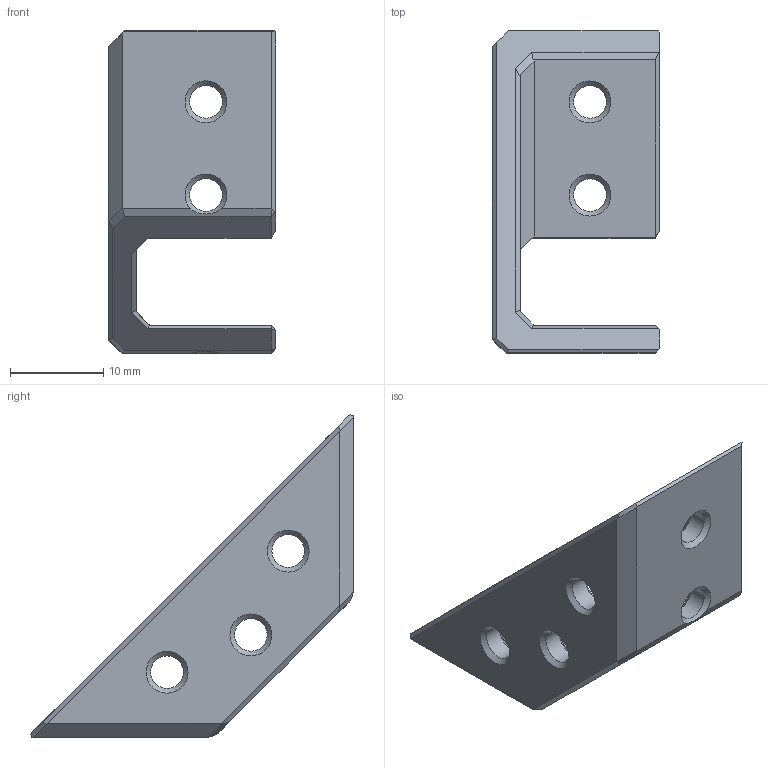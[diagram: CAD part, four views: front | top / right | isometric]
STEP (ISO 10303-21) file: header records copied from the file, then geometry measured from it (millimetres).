
FILE_DESCRIPTION(/* description */ ('Unknown','CAx-IF Rec.Pracs.---Representation and Presentation of Product Manufacturing Information (PMI)---4.0---2014-10-13','CAx-IF Rec.Pracs.---3D Tessellated Geometry---0.4---2014-09-14','2;1'),/* implementation_level */ '2;1');
FILE_NAME(/* name */ 'CornerBracket_35x35mm',/* time_stamp */ '2024-09-15T18:41:07+02:00',/* author */ ('Unknown'),/* organization */ ('Unknown'),/* preprocessor_version */ 'ST-DEVELOPER v19.4',/* originating_system */ 'Solid Edge',/* authorisation */ 'Unknown');
FILE_SCHEMA (('AP242_MANAGED_MODEL_BASED_3D_ENGINEERING_MIM_LF { 1 0 10303 442 1 1 4 }'));
Length unit declared in the file: millimetre
Products named in the file (1): CornerBracket_35x35mm
Bounding box: 18 x 34.65 x 34.65 mm (x, y, z)
Volume: 3040.3 mm3; surface area: 2665.1 mm2
Topology: 1 solids, 1 shells, 65 faces, 180 edges, 115 vertices
Faces by surface type: plane 44, cone 14, cylinder 7
Full cylindrical faces by diameter (mm): 3.5 x7
Entity records: 1878 total; most frequent: CARTESIAN_POINT 315, DIRECTION 310, ORIENTED_EDGE 292, EDGE_CURVE 146, LINE 116, VECTOR 116, VERTEX_POINT 102, EDGE_LOOP 98
